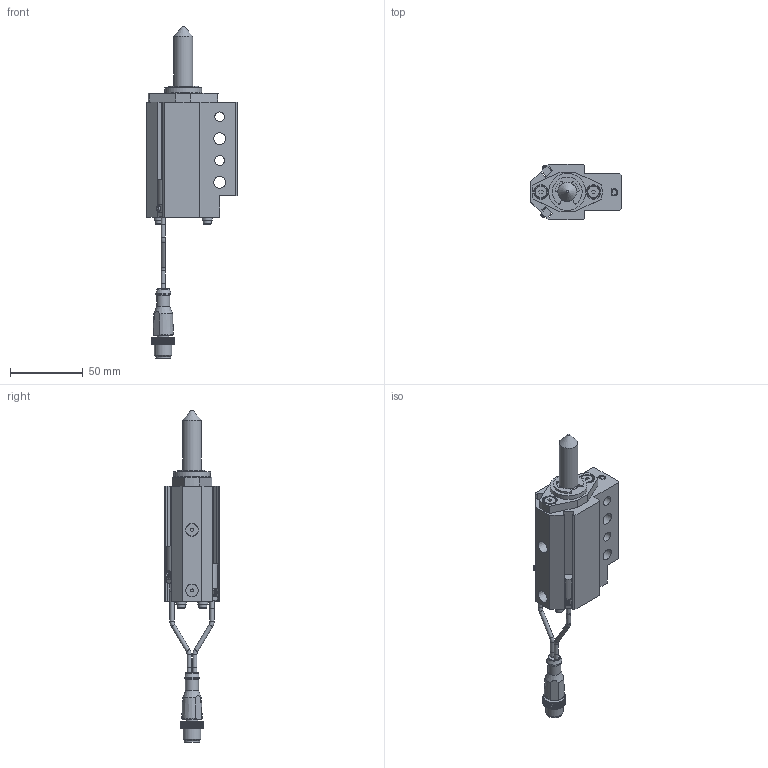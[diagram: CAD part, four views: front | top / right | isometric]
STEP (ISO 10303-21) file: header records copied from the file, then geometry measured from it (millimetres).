
FILE_DESCRIPTION(/* description */ ('NAAMS FLOATING MICRO PIN'),/* implementation_level */ '2;1');
FILE_NAME(/* name */ 'C:\Vault Workspace\CAD\Welker\Shot Pin\NMP\NMP130032ADNL3.stp',/* time_stamp */ '2021-01-27T10:55:29-05:00',/* author */ ('WELKER'),/* organization */ (''),/* preprocessor_version */ 'ST-DEVELOPER v18.1',/* originating_system */ 'Autodesk Inventor 2020',/* authorisation */ '');
FILE_SCHEMA (('AUTOMOTIVE_DESIGN { 1 0 10303 214 3 1 1 }'));
Length unit declared in the file: millimetre
Products named in the file (16): NMPL01; NMP L3 SWITCH; L3 Connector; L3 Sensor 1; L3 Sensor 2; L3 Sensor cable; L3 Sensor cable 2; M3X0.5-8 SHCS; NL3; NMPE06; NMPE03; NMPE05-DIA-LENGTH; 985432A218; NMPE01D-PORT; RMPE02; M5X5 SHOULDER
Assembly tree (22 placements, depth 3):
  NMPL01
    NMP L3 SWITCH
      L3 Connector
      L3 Sensor 1
      L3 Sensor 2
      L3 Sensor cable
      L3 Sensor cable 2
    M3X0.5-8 SHCS  x4
    NL3  x4
    NMPE06
    NMPE03
    NMPE05-DIA-LENGTH
    985432A218
    NMPE01D-PORT
    RMPE02
    M5X5 SHOULDER  x2
Bounding box: 62 x 38.1 x 227.71 mm (x, y, z)
Volume: 115423.1 mm3; surface area: 45997.4 mm2
Topology: 21 solids, 21 shells, 745 faces, 2017 edges, 1348 vertices
Faces by surface type: plane 547, cylinder 143, cone 31, torus 11, bspline 10, sphere 3
Full cylindrical faces by diameter (mm): 2 x2, 2.459 x4, 2.9 x10, 3 x5, 3.242 x2, 3.4 x4, 4 x2, 5 x6, 5.5 x4, 6.647 x2, 7 x4, 8 x2, 8.3 x2, 9 x3, 10 x3, 10.4 x1, 10.5 x1, 12 x1, 13 x3, 16 x2, 19.05 x3, 21 x1, 22.5 x1, 23.672 x1, 24 x1, 25.4 x1, 25.5 x1, 26.5 x1, 28.677 x1, 29.21 x1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
Entity records: 22760 total; most frequent: CARTESIAN_POINT 4217, ORIENTED_EDGE 3732, DIRECTION 3686, EDGE_CURVE 1866, LINE 1374, VECTOR 1374, VERTEX_POINT 1253, AXIS2_PLACEMENT_3D 1156
